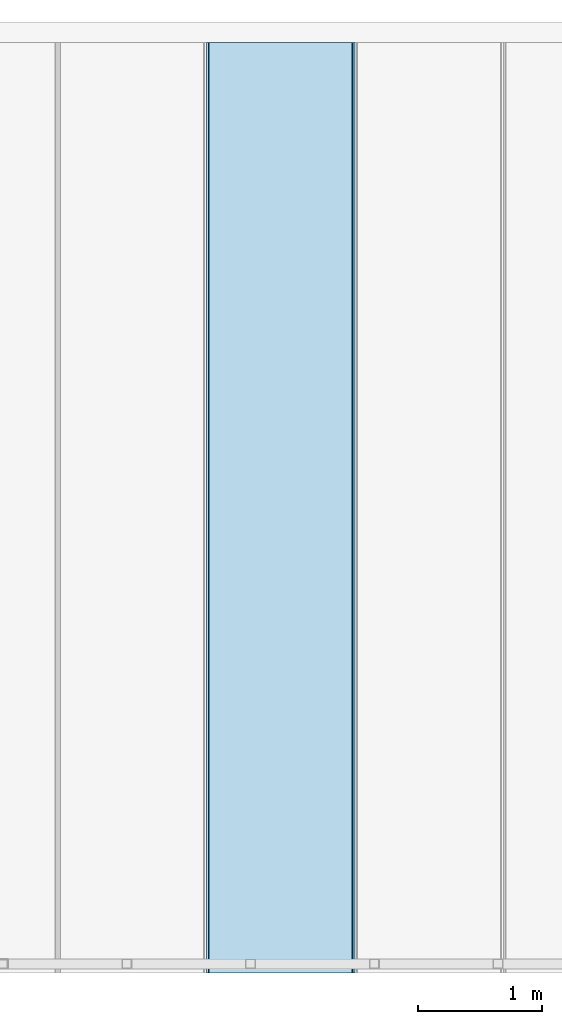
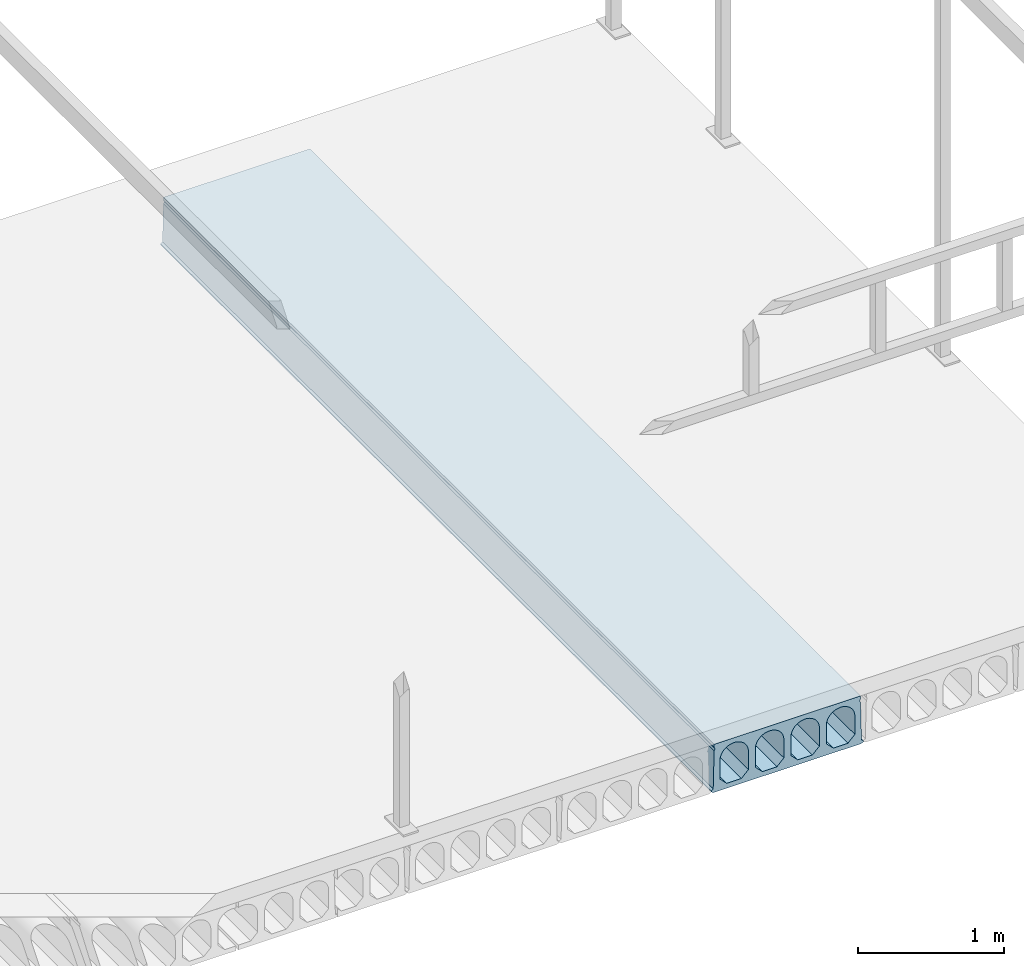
# One storey, part 18 of 20: 1 slab.
"""IFC2X3 building model written with IfcOpenShell, lengths in millimetres."""

from ifc_helpers import new_model, entity, si_unit, converted_unit, derived_unit, direction, frame, origin_with_axes, place, context, subcontext, project, spatial, faceted_brep, type_object, element, save


model = new_model("IFC2X3")

# Units and contexts
model_context = context("Model", 3, precision=0.01, world=frame((0.0, 4.29681676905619e-09, 0.0)), true_north=direction((4.01073788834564e-13, 1.0)))
plan_context = context("Plan", 3, precision=0.01, world=frame((0.0, 4.29681676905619e-09, 0.0)), true_north=direction((4.01073788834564e-13, 1.0)))
body_context = subcontext(model_context, "Body", "Model", "MODEL_VIEW")
ifc_project = project(units=[converted_unit("PLANEANGLEUNIT", "DEGREE", entity("IfcPositiveLengthMeasure", 0.0174532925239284), si_unit("PLANEANGLEUNIT", "RADIAN"), dimensions=[0, 0, 0, 0, 0, 0, 0]), si_unit("AREAUNIT", "SQUARE_METRE"), si_unit("LENGTHUNIT", "METRE", prefix="MILLI"), si_unit("MASSUNIT", "GRAM", prefix="KILO"), si_unit("POWERUNIT", "WATT"), si_unit("PRESSUREUNIT", "PASCAL", prefix="KILO"), si_unit("FORCEUNIT", "NEWTON", prefix="KILO"), si_unit("ELECTRICVOLTAGEUNIT", "VOLT"), si_unit("ELECTRICCURRENTUNIT", "AMPERE"), si_unit("THERMODYNAMICTEMPERATUREUNIT", "DEGREE_CELSIUS"), si_unit("TIMEUNIT", "SECOND"), si_unit("VOLUMEUNIT", "CUBIC_METRE"), derived_unit("LINEARVELOCITYUNIT", [(si_unit("LENGTHUNIT", "METRE"), 1), (si_unit("TIMEUNIT", "SECOND"), -1)]), derived_unit("VOLUMETRICFLOWRATEUNIT", [(si_unit("VOLUMEUNIT", "CUBIC_METRE"), 1), (si_unit("TIMEUNIT", "SECOND"), -1)]), derived_unit("THERMALTRANSMITTANCEUNIT", [(si_unit("POWERUNIT", "WATT"), 1), (si_unit("THERMODYNAMICTEMPERATUREUNIT", "KELVIN"), -1), (si_unit("AREAUNIT", "SQUARE_METRE"), -1)]), derived_unit("SOUNDPRESSUREUNIT", [(si_unit("PRESSUREUNIT", "PASCAL"), 1)])], contexts=[model_context, plan_context])

# Site, building, storey
site_placement = place(None, frame((0.0, -4.29681676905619e-09, 0.0), z_axis=(0.0, 0.0, 1.0), x_axis=(1.0, 0.0, 0.0)))
site = spatial("IfcSite", under=ifc_project, at=site_placement, Name="Gardermoen", CompositionType="ELEMENT")
building_placement = place(site_placement, frame((0.0, 4.29681676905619e-09, 0.0), z_axis=(0.0, 0.0, 1.0), x_axis=(1.0, 0.0, 0.0)))
building = spatial("IfcBuilding", under=site, at=building_placement, Name="TS", CompositionType="ELEMENT")
storey_placement = place(building_placement, origin_with_axes())
storey = spatial("IfcBuildingStorey", under=building, at=storey_placement, Name="D", CompositionType="ELEMENT", Elevation=0.0)

# Slab
slab_type = type_object("IfcSlabType", Name="HD400", PredefinedType="NOTDEFINED")
slab_placement = place(storey_placement, frame((609999.999766, 396739.995625, 203600.0), z_axis=(0.0, 0.0, 1.0), x_axis=(0.0, 1.0, 0.0)))
element("IfcSlab", 1, at=slab_placement, inside=storey, type_object=slab_type, Name="HULLDEKKE", ObjectType="HD400", PredefinedType="FLOOR", context=body_context, shape_type="Brep", body=[
    faceted_brep([(996.504375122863, 600.0, -180.0), (996.504375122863, 600.0, -190.0), (8520.0, 600.0, -190.0), (8520.0, 600.0, -180.0), (996.504375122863, 585.0, -170.0), (8520.0, 585.0, -170.0), (996.504375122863, 577.5, 145.0), (8520.0, 577.5, 145.0), (996.504375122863, 570.0, 160.0), (8520.0, 570.0, 160.0), (996.504375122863, 577.5, 175.0), (8520.0, 577.5, 175.0), (996.504375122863, 577.5, 200.0), (8520.0, 577.5, 200.0), (996.504375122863, -577.5, 200.0), (8520.0, -577.5, 200.0), (996.504375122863, -577.5, 175.0), (8520.0, -577.5, 175.0), (996.504375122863, -570.0, 160.0), (8520.0, -570.0, 160.0), (996.504375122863, -577.5, 145.0), (8520.0, -577.5, 145.0), (996.504375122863, -585.0, -170.0), (8520.0, -585.0, -170.0), (996.504375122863, -600.0, -180.0), (8520.0, -600.0, -180.0), (996.504375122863, -600.0, -190.0), (8520.0, -600.0, -190.0), (996.504375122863, -583.380004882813, -200.0), (8520.0, -583.380004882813, -200.0), (996.504375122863, 583.380004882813, -200.0), (8520.0, 583.380004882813, -200.0), (996.504375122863, -477.5, -160.0), (996.504375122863, -362.5, -160.0), (8520.0, -362.5, -160.0), (8520.0, -477.5, -160.0), (996.504375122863, -532.5, -105.0), (8520.0, -532.5, -105.0), (996.504375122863, -532.5, 47.5), (8520.0, -532.5, 47.5), (996.504375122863, -532.115755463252, 56.7901763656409), (8520.0, -532.115755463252, 56.7901763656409), (996.504375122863, -530.965646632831, 66.0168914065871), (8520.0, -530.965646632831, 66.0168914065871), (996.504375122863, -529.057529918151, 75.1171173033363), (8520.0, -529.057529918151, 75.1171173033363), (996.504375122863, -526.404439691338, 84.028690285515), (8520.0, -526.404439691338, 84.028690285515), (996.504375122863, -523.024499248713, 92.6907352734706), (8520.0, -523.024499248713, 92.6907352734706), (996.504375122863, -518.940797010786, 101.044081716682), (8520.0, -518.940797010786, 101.044081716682), (996.504375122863, -514.181228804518, 109.031667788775), (8520.0, -514.181228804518, 109.031667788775), (996.504375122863, -508.778307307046, 116.598930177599), (8520.0, -508.778307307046, 116.598930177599), (996.504375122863, -502.768939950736, 123.694176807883), (8520.0, -502.768939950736, 123.694176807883), (996.504375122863, -496.194176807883, 130.268939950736), (8520.0, -496.194176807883, 130.268939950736), (996.504375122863, -489.098930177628, 136.278307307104), (8520.0, -489.098930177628, 136.278307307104), (996.504375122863, -481.531667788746, 141.681228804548), (8520.0, -481.531667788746, 141.681228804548), (996.504375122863, -473.544081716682, 146.440797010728), (8520.0, -473.544081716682, 146.440797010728), (996.504375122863, -465.190735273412, 150.524499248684), (8520.0, -465.190735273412, 150.524499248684), (996.504375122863, -456.528690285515, 153.904439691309), (8520.0, -456.528690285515, 153.904439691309), (996.504375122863, -447.617117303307, 156.55752991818), (8520.0, -447.617117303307, 156.55752991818), (996.504375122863, -438.516891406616, 158.465646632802), (8520.0, -438.516891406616, 158.465646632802), (996.504375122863, -429.290176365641, 159.615755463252), (8520.0, -429.290176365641, 159.615755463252), (996.504375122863, -420.0, 160.0), (8520.0, -420.0, 160.0), (996.504375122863, -410.709823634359, 159.615755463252), (8520.0, -410.709823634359, 159.615755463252), (996.504375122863, -401.483108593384, 158.465646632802), (8520.0, -401.483108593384, 158.465646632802), (996.504375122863, -392.382882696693, 156.55752991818), (8520.0, -392.382882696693, 156.55752991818), (996.504375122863, -383.471309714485, 153.904439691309), (8520.0, -383.471309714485, 153.904439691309), (996.504375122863, -374.809264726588, 150.524499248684), (8520.0, -374.809264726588, 150.524499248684), (996.504375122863, -366.455918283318, 146.440797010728), (8520.0, -366.455918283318, 146.440797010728), (996.504375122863, -358.468332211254, 141.681228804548), (8520.0, -358.468332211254, 141.681228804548), (996.504375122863, -350.901069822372, 136.278307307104), (8520.0, -350.901069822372, 136.278307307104), (996.504375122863, -343.805823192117, 130.268939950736), (8520.0, -343.805823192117, 130.268939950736), (996.504375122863, -337.231060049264, 123.694176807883), (8520.0, -337.231060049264, 123.694176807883), (996.504375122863, -331.221692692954, 116.598930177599), (8520.0, -331.221692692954, 116.598930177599), (996.504375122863, -325.818771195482, 109.031667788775), (8520.0, -325.818771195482, 109.031667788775), (996.504375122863, -321.059202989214, 101.044081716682), (8520.0, -321.059202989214, 101.044081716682), (996.504375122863, -316.975500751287, 92.6907352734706), (8520.0, -316.975500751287, 92.6907352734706), (996.504375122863, -313.595560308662, 84.028690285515), (8520.0, -313.595560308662, 84.028690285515), (996.504375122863, -310.942470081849, 75.1171173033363), (8520.0, -310.942470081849, 75.1171173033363), (996.504375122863, -309.034353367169, 66.0168914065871), (8520.0, -309.034353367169, 66.0168914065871), (996.504375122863, -307.884244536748, 56.7901763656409), (8520.0, -307.884244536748, 56.7901763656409), (996.504375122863, -307.5, 47.5), (8520.0, -307.5, 47.5), (996.504375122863, -307.5, -105.0), (8520.0, -307.5, -105.0), (996.504375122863, -197.5, -160.0), (996.504375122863, -82.5, -160.0), (8520.0, -82.5, -160.0), (8520.0, -197.5, -160.0), (996.504375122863, -252.5, -105.0), (8520.0, -252.5, -105.0), (996.504375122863, -252.5, 47.5), (8520.0, -252.5, 47.5), (996.504375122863, -252.115755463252, 56.7901763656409), (8520.0, -252.115755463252, 56.7901763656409), (996.504375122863, -250.965646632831, 66.0168914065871), (8520.0, -250.965646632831, 66.0168914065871), (996.504375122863, -249.057529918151, 75.1171173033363), (8520.0, -249.057529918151, 75.1171173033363), (996.504375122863, -246.404439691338, 84.028690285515), (8520.0, -246.404439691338, 84.028690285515), (996.504375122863, -243.024499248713, 92.6907352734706), (8520.0, -243.024499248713, 92.6907352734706), (996.504375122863, -238.940797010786, 101.044081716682), (8520.0, -238.940797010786, 101.044081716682), (996.504375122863, -234.181228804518, 109.031667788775), (8520.0, -234.181228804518, 109.031667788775), (996.504375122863, -228.778307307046, 116.598930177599), (8520.0, -228.778307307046, 116.598930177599), (996.504375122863, -222.768939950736, 123.694176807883), (8520.0, -222.768939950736, 123.694176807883), (996.504375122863, -216.194176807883, 130.268939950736), (8520.0, -216.194176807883, 130.268939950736), (996.504375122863, -209.098930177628, 136.278307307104), (8520.0, -209.098930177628, 136.278307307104), (996.504375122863, -201.531667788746, 141.681228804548), (8520.0, -201.531667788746, 141.681228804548), (996.504375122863, -193.544081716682, 146.440797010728), (8520.0, -193.544081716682, 146.440797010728), (996.504375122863, -185.190735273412, 150.524499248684), (8520.0, -185.190735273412, 150.524499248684), (996.504375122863, -176.528690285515, 153.904439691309), (8520.0, -176.528690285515, 153.904439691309), (996.504375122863, -167.617117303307, 156.55752991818), (8520.0, -167.617117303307, 156.55752991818), (996.504375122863, -158.516891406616, 158.465646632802), (8520.0, -158.516891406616, 158.465646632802), (996.504375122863, -149.290176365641, 159.615755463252), (8520.0, -149.290176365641, 159.615755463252), (996.504375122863, -140.0, 160.0), (8520.0, -140.0, 160.0), (996.504375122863, -130.709823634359, 159.615755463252), (8520.0, -130.709823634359, 159.615755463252), (996.504375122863, -121.483108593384, 158.465646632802), (8520.0, -121.483108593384, 158.465646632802), (996.504375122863, -112.382882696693, 156.55752991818), (8520.0, -112.382882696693, 156.55752991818), (996.504375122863, -103.471309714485, 153.904439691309), (8520.0, -103.471309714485, 153.904439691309), (996.504375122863, -94.8092647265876, 150.524499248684), (8520.0, -94.8092647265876, 150.524499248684), (996.504375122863, -86.4559182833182, 146.440797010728), (8520.0, -86.4559182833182, 146.440797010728), (996.504375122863, -78.4683322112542, 141.681228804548), (8520.0, -78.4683322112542, 141.681228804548), (996.504375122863, -70.9010698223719, 136.278307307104), (8520.0, -70.9010698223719, 136.278307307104), (996.504375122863, -63.8058231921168, 130.268939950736), (8520.0, -63.8058231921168, 130.268939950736), (996.504375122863, -57.2310600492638, 123.694176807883), (8520.0, -57.2310600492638, 123.694176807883), (996.504375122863, -51.2216926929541, 116.598930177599), (8520.0, -51.2216926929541, 116.598930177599), (996.504375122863, -45.8187711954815, 109.031667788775), (8520.0, -45.8187711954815, 109.031667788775), (996.504375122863, -41.0592029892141, 101.044081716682), (8520.0, -41.0592029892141, 101.044081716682), (996.504375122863, -36.9755007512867, 92.6907352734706), (8520.0, -36.9755007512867, 92.6907352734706), (996.504375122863, -33.5955603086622, 84.028690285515), (8520.0, -33.5955603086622, 84.028690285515), (996.504375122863, -30.942470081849, 75.1171173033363), (8520.0, -30.942470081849, 75.1171173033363), (996.504375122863, -29.0343533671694, 66.0168914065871), (8520.0, -29.0343533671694, 66.0168914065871), (996.504375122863, -27.8842445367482, 56.7901763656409), (8520.0, -27.8842445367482, 56.7901763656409), (996.504375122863, -27.5, 47.5), (8520.0, -27.5, 47.5), (996.504375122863, -27.5, -105.0), (8520.0, -27.5, -105.0), (996.504375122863, 82.5, -160.0), (996.504375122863, 197.5, -160.0), (8520.0, 197.5, -160.0), (8520.0, 82.5, -160.0), (996.504375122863, 27.5, -105.0), (8520.0, 27.5, -105.0), (996.504375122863, 27.5, 47.5), (8520.0, 27.5, 47.5), (996.504375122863, 27.8842445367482, 56.7901763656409), (8520.0, 27.8842445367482, 56.7901763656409), (996.504375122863, 29.0343533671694, 66.0168914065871), (8520.0, 29.0343533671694, 66.0168914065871), (996.504375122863, 30.942470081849, 75.1171173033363), (8520.0, 30.942470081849, 75.1171173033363), (996.504375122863, 33.5955603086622, 84.028690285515), (8520.0, 33.5955603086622, 84.028690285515), (996.504375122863, 36.9755007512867, 92.6907352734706), (8520.0, 36.9755007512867, 92.6907352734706), (996.504375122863, 41.0592029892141, 101.044081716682), (8520.0, 41.0592029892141, 101.044081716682), (996.504375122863, 45.8187711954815, 109.031667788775), (8520.0, 45.8187711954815, 109.031667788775), (996.504375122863, 51.2216926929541, 116.598930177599), (8520.0, 51.2216926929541, 116.598930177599), (996.504375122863, 57.2310600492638, 123.694176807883), (8520.0, 57.2310600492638, 123.694176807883), (996.504375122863, 63.8058231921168, 130.268939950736), (8520.0, 63.8058231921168, 130.268939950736), (996.504375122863, 70.9010698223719, 136.278307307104), (8520.0, 70.9010698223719, 136.278307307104), (996.504375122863, 78.4683322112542, 141.681228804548), (8520.0, 78.4683322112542, 141.681228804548), (996.504375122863, 86.4559182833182, 146.440797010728), (8520.0, 86.4559182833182, 146.440797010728), (996.504375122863, 94.8092647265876, 150.524499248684), (8520.0, 94.8092647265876, 150.524499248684), (996.504375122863, 103.471309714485, 153.904439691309), (8520.0, 103.471309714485, 153.904439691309), (996.504375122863, 112.382882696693, 156.55752991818), (8520.0, 112.382882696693, 156.55752991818), (996.504375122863, 121.483108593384, 158.465646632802), (8520.0, 121.483108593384, 158.465646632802), (996.504375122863, 130.709823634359, 159.615755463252), (8520.0, 130.709823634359, 159.615755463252), (996.504375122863, 140.0, 160.0), (8520.0, 140.0, 160.0), (996.504375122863, 149.290176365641, 159.615755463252), (8520.0, 149.290176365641, 159.615755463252), (996.504375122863, 158.516891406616, 158.465646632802), (8520.0, 158.516891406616, 158.465646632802), (996.504375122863, 167.617117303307, 156.55752991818), (8520.0, 167.617117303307, 156.55752991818), (996.504375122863, 176.528690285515, 153.904439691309), (8520.0, 176.528690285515, 153.904439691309), (996.504375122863, 185.190735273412, 150.524499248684), (8520.0, 185.190735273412, 150.524499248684), (996.504375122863, 193.544081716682, 146.440797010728), (8520.0, 193.544081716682, 146.440797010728), (996.504375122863, 201.531667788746, 141.681228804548), (8520.0, 201.531667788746, 141.681228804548), (996.504375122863, 209.098930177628, 136.278307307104), (8520.0, 209.098930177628, 136.278307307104), (996.504375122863, 216.194176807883, 130.268939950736), (8520.0, 216.194176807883, 130.268939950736), (996.504375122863, 222.768939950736, 123.694176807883), (8520.0, 222.768939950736, 123.694176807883), (996.504375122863, 228.778307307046, 116.598930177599), (8520.0, 228.778307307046, 116.598930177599), (996.504375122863, 234.181228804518, 109.031667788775), (8520.0, 234.181228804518, 109.031667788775), (996.504375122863, 238.940797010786, 101.044081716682), (8520.0, 238.940797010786, 101.044081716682), (996.504375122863, 243.024499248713, 92.6907352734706), (8520.0, 243.024499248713, 92.6907352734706), (996.504375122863, 246.404439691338, 84.028690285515), (8520.0, 246.404439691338, 84.028690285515), (996.504375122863, 249.057529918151, 75.1171173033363), (8520.0, 249.057529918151, 75.1171173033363), (996.504375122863, 250.965646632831, 66.0168914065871), (8520.0, 250.965646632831, 66.0168914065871), (996.504375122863, 252.115755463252, 56.7901763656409), (8520.0, 252.115755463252, 56.7901763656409), (996.504375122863, 252.5, 47.5), (8520.0, 252.5, 47.5), (996.504375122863, 252.5, -105.0), (8520.0, 252.5, -105.0), (996.504375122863, 362.5, -160.0), (996.504375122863, 477.5, -160.0), (8520.0, 477.5, -160.0), (8520.0, 362.5, -160.0), (996.504375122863, 307.5, -105.0), (8520.0, 307.5, -105.0), (996.504375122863, 307.5, 47.5), (8520.0, 307.5, 47.5), (996.504375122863, 307.884244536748, 56.7901763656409), (8520.0, 307.884244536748, 56.7901763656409), (996.504375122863, 309.034353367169, 66.0168914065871), (8520.0, 309.034353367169, 66.0168914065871), (996.504375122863, 310.942470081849, 75.1171173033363), (8520.0, 310.942470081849, 75.1171173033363), (996.504375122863, 313.595560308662, 84.028690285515), (8520.0, 313.595560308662, 84.028690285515), (996.504375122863, 316.975500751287, 92.6907352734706), (8520.0, 316.975500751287, 92.6907352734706), (996.504375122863, 321.059202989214, 101.044081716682), (8520.0, 321.059202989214, 101.044081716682), (996.504375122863, 325.818771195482, 109.031667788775), (8520.0, 325.818771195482, 109.031667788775), (996.504375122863, 331.221692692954, 116.598930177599), (8520.0, 331.221692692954, 116.598930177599), (996.504375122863, 337.231060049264, 123.694176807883), (8520.0, 337.231060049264, 123.694176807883), (996.504375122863, 343.805823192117, 130.268939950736), (8520.0, 343.805823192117, 130.268939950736), (996.504375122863, 350.901069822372, 136.278307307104), (8520.0, 350.901069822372, 136.278307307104), (996.504375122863, 358.468332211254, 141.681228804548), (8520.0, 358.468332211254, 141.681228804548), (996.504375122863, 366.455918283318, 146.440797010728), (8520.0, 366.455918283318, 146.440797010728), (996.504375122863, 374.809264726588, 150.524499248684), (8520.0, 374.809264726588, 150.524499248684), (996.504375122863, 383.471309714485, 153.904439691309), (8520.0, 383.471309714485, 153.904439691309), (996.504375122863, 392.382882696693, 156.55752991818), (8520.0, 392.382882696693, 156.55752991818), (996.504375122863, 401.483108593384, 158.465646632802), (8520.0, 401.483108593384, 158.465646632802), (996.504375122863, 410.709823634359, 159.615755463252), (8520.0, 410.709823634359, 159.615755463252), (996.504375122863, 420.0, 160.0), (8520.0, 420.0, 160.0), (996.504375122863, 429.290176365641, 159.615755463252), (8520.0, 429.290176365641, 159.615755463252), (996.504375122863, 438.516891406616, 158.465646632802), (8520.0, 438.516891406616, 158.465646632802), (996.504375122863, 447.617117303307, 156.55752991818), (8520.0, 447.617117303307, 156.55752991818), (996.504375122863, 456.528690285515, 153.904439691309), (8520.0, 456.528690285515, 153.904439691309), (996.504375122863, 465.190735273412, 150.524499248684), (8520.0, 465.190735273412, 150.524499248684), (996.504375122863, 473.544081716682, 146.440797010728), (8520.0, 473.544081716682, 146.440797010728), (996.504375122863, 481.531667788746, 141.681228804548), (8520.0, 481.531667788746, 141.681228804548), (996.504375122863, 489.098930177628, 136.278307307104), (8520.0, 489.098930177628, 136.278307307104), (996.504375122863, 496.194176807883, 130.268939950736), (8520.0, 496.194176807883, 130.268939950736), (996.504375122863, 502.768939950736, 123.694176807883), (8520.0, 502.768939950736, 123.694176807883), (996.504375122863, 508.778307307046, 116.598930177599), (8520.0, 508.778307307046, 116.598930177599), (996.504375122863, 514.181228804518, 109.031667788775), (8520.0, 514.181228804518, 109.031667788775), (996.504375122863, 518.940797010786, 101.044081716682), (8520.0, 518.940797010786, 101.044081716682), (996.504375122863, 523.024499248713, 92.6907352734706), (8520.0, 523.024499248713, 92.6907352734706), (996.504375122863, 526.404439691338, 84.028690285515), (8520.0, 526.404439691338, 84.028690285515), (996.504375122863, 529.057529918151, 75.1171173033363), (8520.0, 529.057529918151, 75.1171173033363), (996.504375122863, 530.965646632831, 66.0168914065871), (8520.0, 530.965646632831, 66.0168914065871), (996.504375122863, 532.115755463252, 56.7901763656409), (8520.0, 532.115755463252, 56.7901763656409), (996.504375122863, 532.5, 47.5), (8520.0, 532.5, 47.5), (996.504375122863, 532.5, -105.0), (8520.0, 532.5, -105.0)], [[[0, 1, 2, 3]], [[4, 0, 3, 5]], [[6, 4, 5, 7]], [[8, 6, 7, 9]], [[10, 8, 9, 11]], [[12, 10, 11, 13]], [[14, 12, 13, 15]], [[16, 14, 15, 17]], [[18, 16, 17, 19]], [[20, 18, 19, 21]], [[22, 20, 21, 23]], [[24, 22, 23, 25]], [[26, 24, 25, 27]], [[28, 26, 27, 29]], [[30, 28, 29, 31]], [[1, 30, 31, 2]], [[32, 33, 34, 35]], [[36, 32, 35, 37]], [[38, 36, 37, 39]], [[40, 38, 39, 41]], [[42, 40, 41, 43]], [[44, 42, 43, 45]], [[46, 44, 45, 47]], [[48, 46, 47, 49]], [[50, 48, 49, 51]], [[52, 50, 51, 53]], [[54, 52, 53, 55]], [[56, 54, 55, 57]], [[58, 56, 57, 59]], [[60, 58, 59, 61]], [[62, 60, 61, 63]], [[64, 62, 63, 65]], [[66, 64, 65, 67]], [[68, 66, 67, 69]], [[70, 68, 69, 71]], [[72, 70, 71, 73]], [[74, 72, 73, 75]], [[76, 74, 75, 77]], [[78, 76, 77, 79]], [[80, 78, 79, 81]], [[82, 80, 81, 83]], [[84, 82, 83, 85]], [[86, 84, 85, 87]], [[88, 86, 87, 89]], [[90, 88, 89, 91]], [[92, 90, 91, 93]], [[94, 92, 93, 95]], [[96, 94, 95, 97]], [[98, 96, 97, 99]], [[100, 98, 99, 101]], [[102, 100, 101, 103]], [[104, 102, 103, 105]], [[106, 104, 105, 107]], [[108, 106, 107, 109]], [[110, 108, 109, 111]], [[112, 110, 111, 113]], [[114, 112, 113, 115]], [[116, 114, 115, 117]], [[33, 116, 117, 34]], [[118, 119, 120, 121]], [[122, 118, 121, 123]], [[124, 122, 123, 125]], [[126, 124, 125, 127]], [[128, 126, 127, 129]], [[130, 128, 129, 131]], [[132, 130, 131, 133]], [[134, 132, 133, 135]], [[136, 134, 135, 137]], [[138, 136, 137, 139]], [[140, 138, 139, 141]], [[142, 140, 141, 143]], [[144, 142, 143, 145]], [[146, 144, 145, 147]], [[148, 146, 147, 149]], [[150, 148, 149, 151]], [[152, 150, 151, 153]], [[154, 152, 153, 155]], [[156, 154, 155, 157]], [[158, 156, 157, 159]], [[160, 158, 159, 161]], [[162, 160, 161, 163]], [[164, 162, 163, 165]], [[166, 164, 165, 167]], [[168, 166, 167, 169]], [[170, 168, 169, 171]], [[172, 170, 171, 173]], [[174, 172, 173, 175]], [[176, 174, 175, 177]], [[178, 176, 177, 179]], [[180, 178, 179, 181]], [[182, 180, 181, 183]], [[184, 182, 183, 185]], [[186, 184, 185, 187]], [[188, 186, 187, 189]], [[190, 188, 189, 191]], [[192, 190, 191, 193]], [[194, 192, 193, 195]], [[196, 194, 195, 197]], [[198, 196, 197, 199]], [[200, 198, 199, 201]], [[202, 200, 201, 203]], [[119, 202, 203, 120]], [[204, 205, 206, 207]], [[208, 204, 207, 209]], [[210, 208, 209, 211]], [[212, 210, 211, 213]], [[214, 212, 213, 215]], [[216, 214, 215, 217]], [[218, 216, 217, 219]], [[220, 218, 219, 221]], [[222, 220, 221, 223]], [[224, 222, 223, 225]], [[226, 224, 225, 227]], [[228, 226, 227, 229]], [[230, 228, 229, 231]], [[232, 230, 231, 233]], [[234, 232, 233, 235]], [[236, 234, 235, 237]], [[238, 236, 237, 239]], [[240, 238, 239, 241]], [[242, 240, 241, 243]], [[244, 242, 243, 245]], [[246, 244, 245, 247]], [[248, 246, 247, 249]], [[250, 248, 249, 251]], [[252, 250, 251, 253]], [[254, 252, 253, 255]], [[256, 254, 255, 257]], [[258, 256, 257, 259]], [[260, 258, 259, 261]], [[262, 260, 261, 263]], [[264, 262, 263, 265]], [[266, 264, 265, 267]], [[268, 266, 267, 269]], [[270, 268, 269, 271]], [[272, 270, 271, 273]], [[274, 272, 273, 275]], [[276, 274, 275, 277]], [[278, 276, 277, 279]], [[280, 278, 279, 281]], [[282, 280, 281, 283]], [[284, 282, 283, 285]], [[286, 284, 285, 287]], [[288, 286, 287, 289]], [[205, 288, 289, 206]], [[290, 291, 292, 293]], [[294, 290, 293, 295]], [[296, 294, 295, 297]], [[298, 296, 297, 299]], [[300, 298, 299, 301]], [[302, 300, 301, 303]], [[304, 302, 303, 305]], [[306, 304, 305, 307]], [[308, 306, 307, 309]], [[310, 308, 309, 311]], [[312, 310, 311, 313]], [[314, 312, 313, 315]], [[316, 314, 315, 317]], [[318, 316, 317, 319]], [[320, 318, 319, 321]], [[322, 320, 321, 323]], [[324, 322, 323, 325]], [[326, 324, 325, 327]], [[328, 326, 327, 329]], [[330, 328, 329, 331]], [[332, 330, 331, 333]], [[334, 332, 333, 335]], [[336, 334, 335, 337]], [[338, 336, 337, 339]], [[340, 338, 339, 341]], [[342, 340, 341, 343]], [[344, 342, 343, 345]], [[346, 344, 345, 347]], [[348, 346, 347, 349]], [[350, 348, 349, 351]], [[352, 350, 351, 353]], [[354, 352, 353, 355]], [[356, 354, 355, 357]], [[358, 356, 357, 359]], [[360, 358, 359, 361]], [[362, 360, 361, 363]], [[364, 362, 363, 365]], [[366, 364, 365, 367]], [[368, 366, 367, 369]], [[370, 368, 369, 371]], [[372, 370, 371, 373]], [[374, 372, 373, 375]], [[291, 374, 375, 292]], [[3, 2, 31, 29, 27, 25, 23, 21, 19, 17, 15, 13, 11, 9, 7, 5], [293, 292, 375, 373, 371, 369, 367, 365, 363, 361, 359, 357, 355, 353, 351, 349, 347, 345, 343, 341, 339, 337, 335, 333, 331, 329, 327, 325, 323, 321, 319, 317, 315, 313, 311, 309, 307, 305, 303, 301, 299, 297, 295], [207, 206, 289, 287, 285, 283, 281, 279, 277, 275, 273, 271, 269, 267, 265, 263, 261, 259, 257, 255, 253, 251, 249, 247, 245, 243, 241, 239, 237, 235, 233, 231, 229, 227, 225, 223, 221, 219, 217, 215, 213, 211, 209], [121, 120, 203, 201, 199, 197, 195, 193, 191, 189, 187, 185, 183, 181, 179, 177, 175, 173, 171, 169, 167, 165, 163, 161, 159, 157, 155, 153, 151, 149, 147, 145, 143, 141, 139, 137, 135, 133, 131, 129, 127, 125, 123], [35, 34, 117, 115, 113, 111, 109, 107, 105, 103, 101, 99, 97, 95, 93, 91, 89, 87, 85, 83, 81, 79, 77, 75, 73, 71, 69, 67, 65, 63, 61, 59, 57, 55, 53, 51, 49, 47, 45, 43, 41, 39, 37]], [[4, 6, 8, 10, 12, 14, 16, 18, 20, 22, 24, 26, 28, 30, 1, 0], [36, 38, 40, 42, 44, 46, 48, 50, 52, 54, 56, 58, 60, 62, 64, 66, 68, 70, 72, 74, 76, 78, 80, 82, 84, 86, 88, 90, 92, 94, 96, 98, 100, 102, 104, 106, 108, 110, 112, 114, 116, 33, 32], [122, 124, 126, 128, 130, 132, 134, 136, 138, 140, 142, 144, 146, 148, 150, 152, 154, 156, 158, 160, 162, 164, 166, 168, 170, 172, 174, 176, 178, 180, 182, 184, 186, 188, 190, 192, 194, 196, 198, 200, 202, 119, 118], [208, 210, 212, 214, 216, 218, 220, 222, 224, 226, 228, 230, 232, 234, 236, 238, 240, 242, 244, 246, 248, 250, 252, 254, 256, 258, 260, 262, 264, 266, 268, 270, 272, 274, 276, 278, 280, 282, 284, 286, 288, 205, 204], [294, 296, 298, 300, 302, 304, 306, 308, 310, 312, 314, 316, 318, 320, 322, 324, 326, 328, 330, 332, 334, 336, 338, 340, 342, 344, 346, 348, 350, 352, 354, 356, 358, 360, 362, 364, 366, 368, 370, 372, 374, 291, 290]]], orient=[[False], [False], [False], [False], [False], [False], [False], [False], [False], [False], [False], [False], [False], [False], [False], [False], [False], [False], [False], [False], [False], [False], [False], [False], [False], [False], [False], [False], [False], [False], [False], [False], [False], [False], [False], [False], [False], [False], [False], [False], [False], [False], [False], [False], [False], [False], [False], [False], [False], [False], [False], [False], [False], [False], [False], [False], [False], [False], [False], [False], [False], [False], [False], [False], [False], [False], [False], [False], [False], [False], [False], [False], [False], [False], [False], [False], [False], [False], [False], [False], [False], [False], [False], [False], [False], [False], [False], [False], [False], [False], [False], [False], [False], [False], [False], [False], [False], [False], [False], [False], [False], [False], [False], [False], [False], [False], [False], [False], [False], [False], [False], [False], [False], [False], [False], [False], [False], [False], [False], [False], [False], [False], [False], [False], [False], [False], [False], [False], [False], [False], [False], [False], [False], [False], [False], [False], [False], [False], [False], [False], [False], [False], [False], [False], [False], [False], [False], [False], [False], [False], [False], [False], [False], [False], [False], [False], [False], [False], [False], [False], [False], [False], [False], [False], [False], [False], [False], [False], [False], [False], [False], [False], [False], [False], [False], [False], [False], [False], [False], [False], [False], [False], [False], [False], [False], [False], [False], [False], [False, False, False, False, False], [False, False, False, False, False]]),
])

save(model, "model.ifc")
